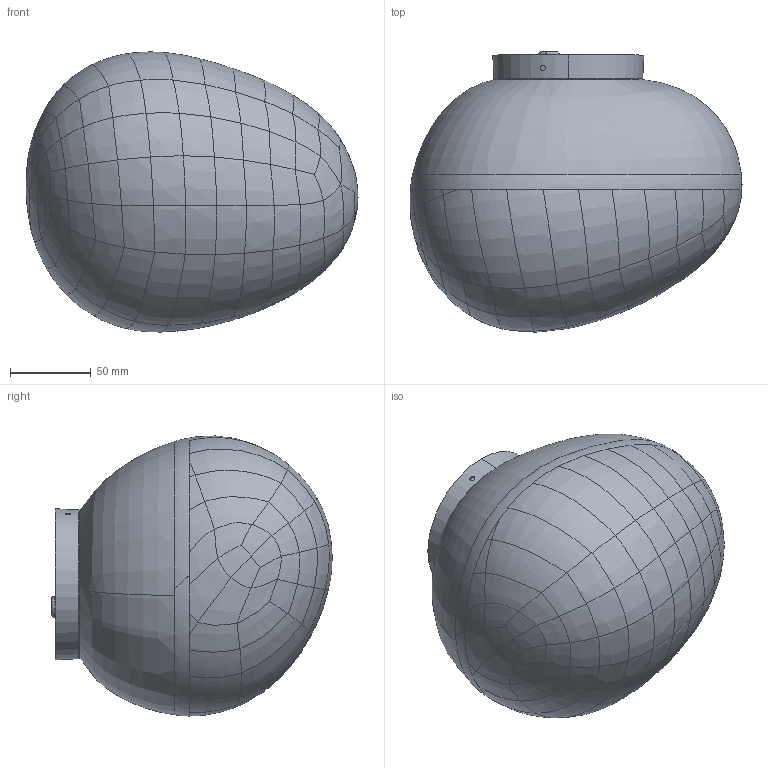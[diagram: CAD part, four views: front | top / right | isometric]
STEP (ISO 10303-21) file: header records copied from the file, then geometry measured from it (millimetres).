
FILE_DESCRIPTION (( 'STEP AP203' ), '1' );
FILE_NAME ('287M053LR1_3D.STEP', '2024-11-04T11:18:37', ( '' ), ( '' ), 'SwSTEP 2.0', 'SolidWorks 2024', '' );
FILE_SCHEMA (( 'CONFIG_CONTROL_DESIGN' ));
Length unit declared in the file: millimetre
Products named in the file (5): 287M053LR1_3D; CN287M22R1_3D_287M26R1; 287V013_3D; P 6307-0-3N_3D; 287M25_3D
Assembly tree (4 placements, depth 2):
  287M053LR1_3D
    287V013_3D
    CN287M22R1_3D_287M26R1
    287M25_3D
    P 6307-0-3N_3D
Bounding box: 205.5 x 173.55 x 173.37 mm (x, y, z)
Volume: 435564 mm3; surface area: 228780.7 mm2
Topology: 4 solids, 6 shells, 529 faces, 1277 edges, 769 vertices
Faces by surface type: bspline 294, cylinder 96, plane 70, cone 36, torus 31, sphere 2
Entity records: 235020 total; most frequent: CARTESIAN_POINT 224402, ORIENTED_EDGE 2546, DIRECTION 1364, EDGE_CURVE 1273, VERTEX_POINT 769, B_SPLINE_CURVE_WITH_KNOTS 719, AXIS2_PLACEMENT_3D 577, EDGE_LOOP 558
